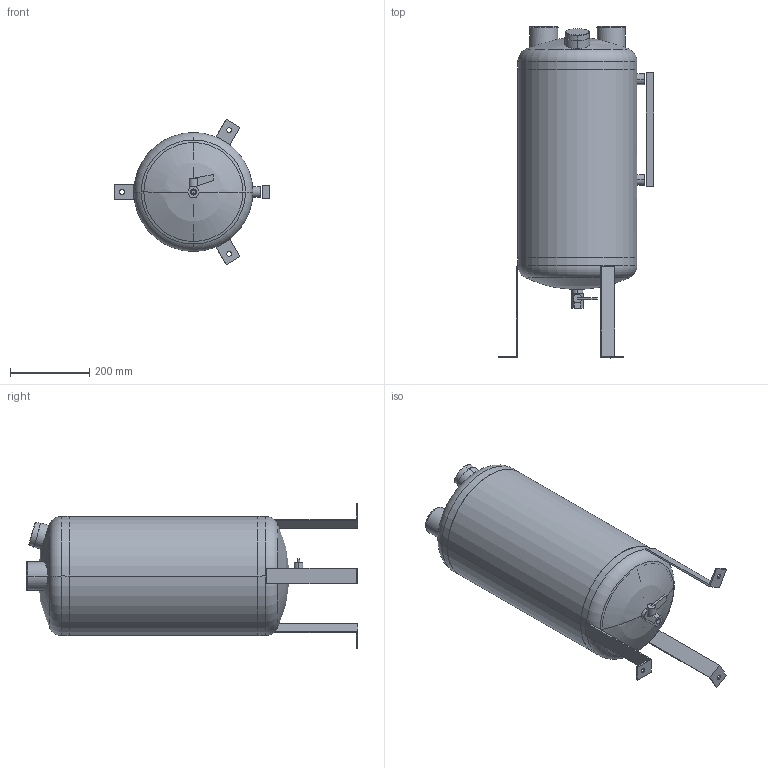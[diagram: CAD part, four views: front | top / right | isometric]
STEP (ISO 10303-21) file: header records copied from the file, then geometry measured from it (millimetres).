
FILE_DESCRIPTION((''),'2;1');
FILE_NAME('95144_B1','2015-05-25T',('L2200084'),('Copyright by Leybold GmbH'),'PRO/ENGINEER BY PARAMETRIC TECHNOLOGY CORPORATION, 2013320','PRO/ENGINEER BY PARAMETRIC TECHNOLOGY CORPORATION, 2013320','');
FILE_SCHEMA(('AUTOMOTIVE_DESIGN { 1 0 10303 214 1 1 1 1 }'));
Length unit declared in the file: millimetre
Products named in the file (1): 95144_B1
Bounding box: 393 x 836.55 x 366.41 mm (x, y, z)
Surface area: 1529261.6 mm2 (no closed solid volume)
Topology: 0 solids, 17 shells, 161 faces, 406 edges, 266 vertices
Faces by surface type: plane 63, cylinder 56, cone 20, torus 12, sphere 6, bspline 4
Entity records: 5539 total; most frequent: CARTESIAN_POINT 1390, DIRECTION 855, ORIENTED_EDGE 738, EDGE_CURVE 402, AXIS2_PLACEMENT_3D 334, VERTEX_POINT 266, EDGE_LOOP 188, VECTOR 187
